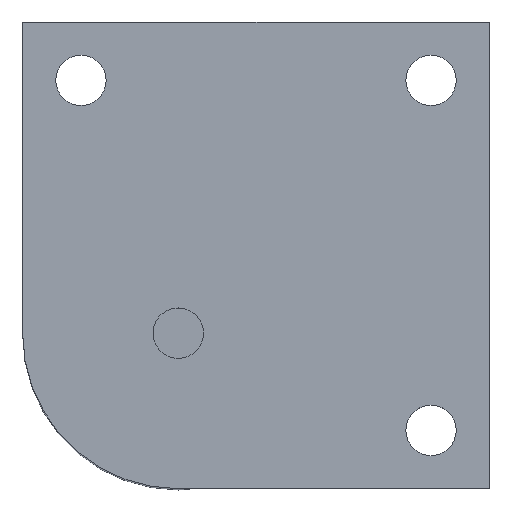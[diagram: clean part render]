
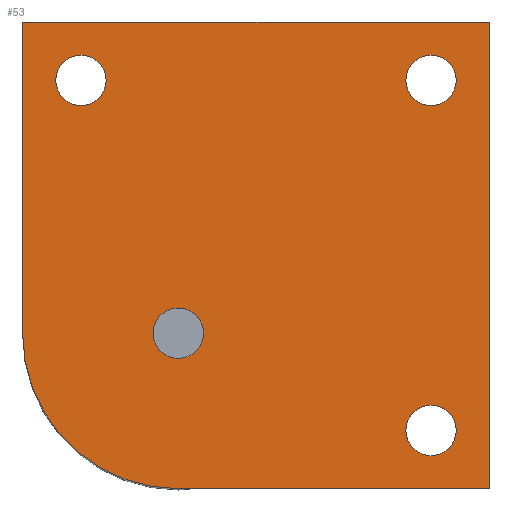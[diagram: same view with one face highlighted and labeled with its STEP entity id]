
A CAD part, top view. The second image highlights one B-rep face of the part: STEP entity #53.
In plain terms, the highlighted planar face has unit normal (0, 0, 1).
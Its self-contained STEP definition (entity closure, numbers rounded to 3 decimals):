
#53 = ADVANCED_FACE( '', ( #113, #114, #115, #116, #117 ), #118, .T. );
#113 = FACE_BOUND( '', #179, .T. );
#114 = FACE_BOUND( '', #180, .T. );
#115 = FACE_BOUND( '', #181, .T. );
#116 = FACE_BOUND( '', #182, .T. );
#117 = FACE_OUTER_BOUND( '', #183, .T. );
#118 = PLANE( '', #184 );
#179 = EDGE_LOOP( '', ( #269 ) );
#180 = EDGE_LOOP( '', ( #270 ) );
#181 = EDGE_LOOP( '', ( #271 ) );
#182 = EDGE_LOOP( '', ( #272 ) );
#183 = EDGE_LOOP( '', ( #273, #274, #275, #276, #277 ) );
#184 = AXIS2_PLACEMENT_3D( '', #278, #279, #280 );
#269 = ORIENTED_EDGE( '', *, *, #352, .F. );
#270 = ORIENTED_EDGE( '', *, *, #334, .F. );
#271 = ORIENTED_EDGE( '', *, *, #353, .F. );
#272 = ORIENTED_EDGE( '', *, *, #343, .F. );
#273 = ORIENTED_EDGE( '', *, *, #349, .T. );
#274 = ORIENTED_EDGE( '', *, *, #345, .T. );
#275 = ORIENTED_EDGE( '', *, *, #329, .T. );
#276 = ORIENTED_EDGE( '', *, *, #324, .T. );
#277 = ORIENTED_EDGE( '', *, *, #354, .T. );
#278 = CARTESIAN_POINT( '', ( -32.5, -32.5, 0. ) );
#279 = DIRECTION( '', ( 0., 0., 1. ) );
#280 = DIRECTION( '', ( 1., 0., 0. ) );
#324 = EDGE_CURVE( '', #365, #366, #367, .T. );
#329 = EDGE_CURVE( '', #374, #365, #375, .T. );
#334 = EDGE_CURVE( '', #382, #382, #383, .T. );
#343 = EDGE_CURVE( '', #397, #397, #398, .T. );
#345 = EDGE_CURVE( '', #400, #374, #401, .T. );
#349 = EDGE_CURVE( '', #406, #400, #407, .T. );
#352 = EDGE_CURVE( '', #410, #410, #411, .T. );
#353 = EDGE_CURVE( '', #412, #412, #413, .T. );
#354 = EDGE_CURVE( '', #366, #406, #414, .T. );
#365 = VERTEX_POINT( '', #427 );
#366 = VERTEX_POINT( '', #428 );
#367 = LINE( '', #429, #430 );
#374 = VERTEX_POINT( '', #440 );
#375 = LINE( '', #441, #442 );
#382 = VERTEX_POINT( '', #451 );
#383 = CIRCLE( '', #452, 3.24 );
#397 = VERTEX_POINT( '', #468 );
#398 = CIRCLE( '', #469, 3.24 );
#400 = VERTEX_POINT( '', #471 );
#401 = CIRCLE( '', #472, 20. );
#406 = VERTEX_POINT( '', #478 );
#407 = LINE( '', #479, #480 );
#410 = VERTEX_POINT( '', #484 );
#411 = CIRCLE( '', #485, 3.24 );
#412 = VERTEX_POINT( '', #486 );
#413 = CIRCLE( '', #487, 3.24 );
#414 = LINE( '', #488, #489 );
#427 = CARTESIAN_POINT( '', ( 7.5, -52.5, 0. ) );
#428 = CARTESIAN_POINT( '', ( 7.5, 7.5, 0. ) );
#429 = CARTESIAN_POINT( '', ( 7.5, -52.5, 0. ) );
#430 = VECTOR( '', #501, 1000. );
#440 = CARTESIAN_POINT( '', ( -32.5, -52.5, 0. ) );
#441 = CARTESIAN_POINT( '', ( -32.5, -52.5, 0. ) );
#442 = VECTOR( '', #505, 1000. );
#451 = CARTESIAN_POINT( '', ( -29.26, -32.5, 0. ) );
#452 = AXIS2_PLACEMENT_3D( '', #511, #512, #513 );
#468 = CARTESIAN_POINT( '', ( 3.24, 0., 0. ) );
#469 = AXIS2_PLACEMENT_3D( '', #528, #529, #530 );
#471 = CARTESIAN_POINT( '', ( -52.5, -32.5, 0. ) );
#472 = AXIS2_PLACEMENT_3D( '', #531, #532, #533 );
#478 = CARTESIAN_POINT( '', ( -52.5, 7.5, 0. ) );
#479 = CARTESIAN_POINT( '', ( -52.5, 7.5, 0. ) );
#480 = VECTOR( '', #538, 1000. );
#484 = CARTESIAN_POINT( '', ( -41.76, 0., 0. ) );
#485 = AXIS2_PLACEMENT_3D( '', #540, #541, #542 );
#486 = CARTESIAN_POINT( '', ( 3.24, -45., 0. ) );
#487 = AXIS2_PLACEMENT_3D( '', #543, #544, #545 );
#488 = CARTESIAN_POINT( '', ( 7.5, 7.5, 0. ) );
#489 = VECTOR( '', #546, 1000. );
#501 = DIRECTION( '', ( 0., 1., 0. ) );
#505 = DIRECTION( '', ( 1., 0., 0. ) );
#511 = CARTESIAN_POINT( '', ( -32.5, -32.5, 0. ) );
#512 = DIRECTION( '', ( 0., 0., 1. ) );
#513 = DIRECTION( '', ( 1., 0., 0. ) );
#528 = CARTESIAN_POINT( '', ( 0., 0., 0. ) );
#529 = DIRECTION( '', ( 0., 0., 1. ) );
#530 = DIRECTION( '', ( 1., 0., 0. ) );
#531 = CARTESIAN_POINT( '', ( -32.5, -32.5, 0. ) );
#532 = DIRECTION( '', ( 0., 0., 1. ) );
#533 = DIRECTION( '', ( 1., 0., 0. ) );
#538 = DIRECTION( '', ( 0., -1., 0. ) );
#540 = CARTESIAN_POINT( '', ( -45., 0., 0. ) );
#541 = DIRECTION( '', ( 0., 0., 1. ) );
#542 = DIRECTION( '', ( 1., 0., 0. ) );
#543 = CARTESIAN_POINT( '', ( 0., -45., 0. ) );
#544 = DIRECTION( '', ( 0., 0., 1. ) );
#545 = DIRECTION( '', ( 1., 0., 0. ) );
#546 = DIRECTION( '', ( -1., 0., 0. ) );
